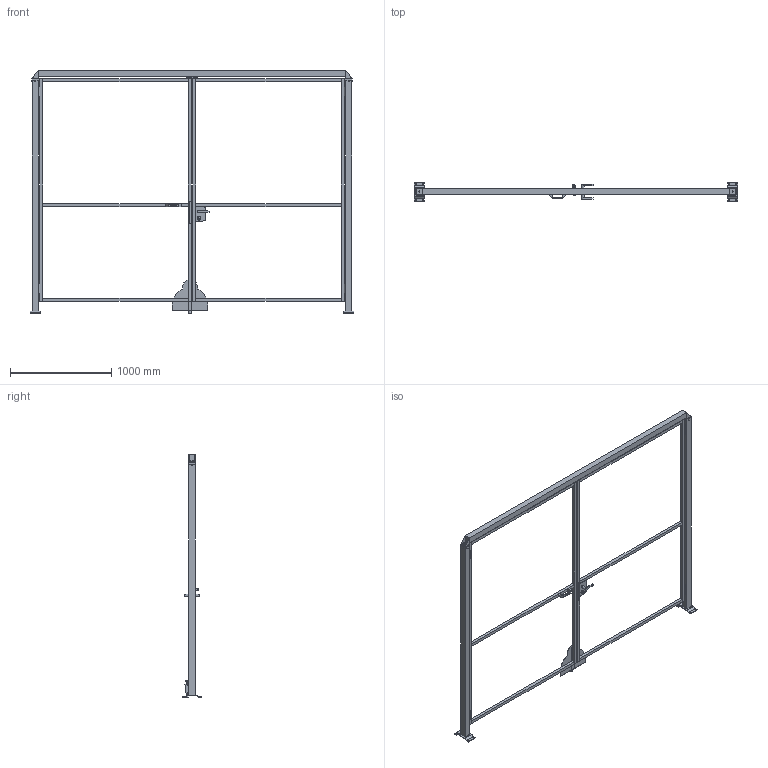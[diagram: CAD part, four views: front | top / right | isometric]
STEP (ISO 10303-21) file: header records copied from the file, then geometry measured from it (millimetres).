
FILE_DESCRIPTION(/* description */ (''),/* implementation_level */ '2;1');
FILE_NAME(/* name */ 'C:\SafeGuarding\ELABORATI\VZOR§GAMMA_2025-02-03-12-09-49.stp',/* time_stamp */ '2025-02-03T12:09:53+01:00',/* author */ ('admin'),/* organization */ (''),/* preprocessor_version */ 'ST-DEVELOPER v18.1',/* originating_system */ 'AutoCAD Mechanical',/* authorisation */ '');
FILE_SCHEMA (('AUTOMOTIVE_DESIGN { 1 0 10303 214 3 1 1 }'));
Length unit declared in the file: millimetre
Products named in the file (5): Product; *U4; DATI_PORTA; P_VFMA.ME60SDU.2320; R_VFPA.REPE30.15002200
Assembly tree (6 placements, depth 2):
  Product
    R_VFPA.REPE30.15002200  x2
    P_VFMA.ME60SDU.2320  x2
    *U4
    DATI_PORTA
Bounding box: 3205 x 192 x 2400.5 mm (x, y, z)
Volume: 45028696.5 mm3; surface area: 4605886.9 mm2
Topology: 38 solids, 49 shells, 429 faces, 1396 edges, 1408 vertices
Faces by surface type: plane 353, cylinder 71, bspline 4, cone 1
Full cylindrical faces by diameter (mm): 11 x25, 14 x2, 24 x1, 25 x2, 25.398 x2
Entity records: 13509 total; most frequent: CARTESIAN_POINT 3902, DIRECTION 1883, ORIENTED_EDGE 1688, EDGE_CURVE 893, LINE 789, VECTOR 789, VERTEX_POINT 632, AXIS2_PLACEMENT_3D 547
